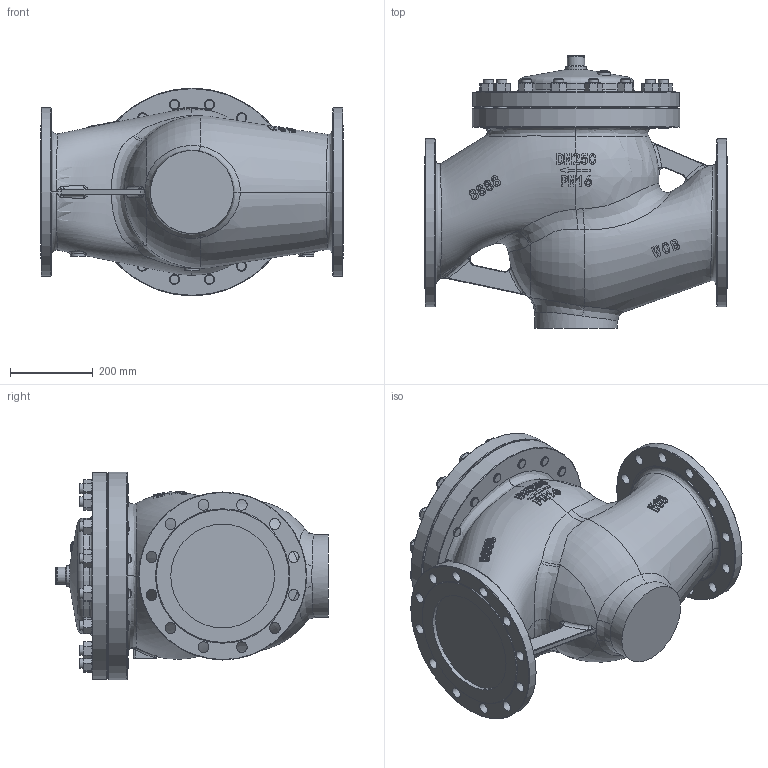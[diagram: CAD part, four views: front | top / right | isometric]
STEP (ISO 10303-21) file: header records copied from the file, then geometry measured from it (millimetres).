
FILE_DESCRIPTION (( 'STEP AP214' ), '1' );
FILE_NAME ('V230YLFRMFTJJGZJ.250.16-40 V230压力阀软密封调节机构组件0225.STEP', '2025-02-26T08:29:37', ( '' ), ( '' ), 'SwSTEP 2.0', 'SolidWorks 2020', '' );
FILE_SCHEMA (( 'AUTOMOTIVE_DESIGN' ));
Length unit declared in the file: millimetre
Products named in the file (1): V230YLFRMFTJJGZJ.250.16-40 V230压力阀软密封调节机构组件0225
Bounding box: 730 x 657.8 x 500 mm (x, y, z)
Volume: 94189679 mm3; surface area: 2052028.9 mm2
Topology: 1 solids, 1 shells, 930 faces, 2188 edges, 1348 vertices
Faces by surface type: plane 286, cone 281, bspline 182, cylinder 157, torus 12, sphere 12
Full cylindrical faces by diameter (mm): 20 x1, 22.05 x16, 24 x60, 26 x24, 28 x16, 30 x1, 36 x3, 38.9 x1, 42 x1, 50 x1, 200 x1, 250 x2, 280 x1, 305 x2, 379.7 x1, 405 x2, 500 x2
Entity records: 374872 total; most frequent: CARTESIAN_POINT 347012, ORIENTED_EDGE 3646, DIRECTION 3030, EDGE_CURVE 1823, AXIS2_PLACEMENT_3D 1381, EDGE_LOOP 1348, VERTEX_POINT 1229, FACE_OUTER_BOUND 1082
